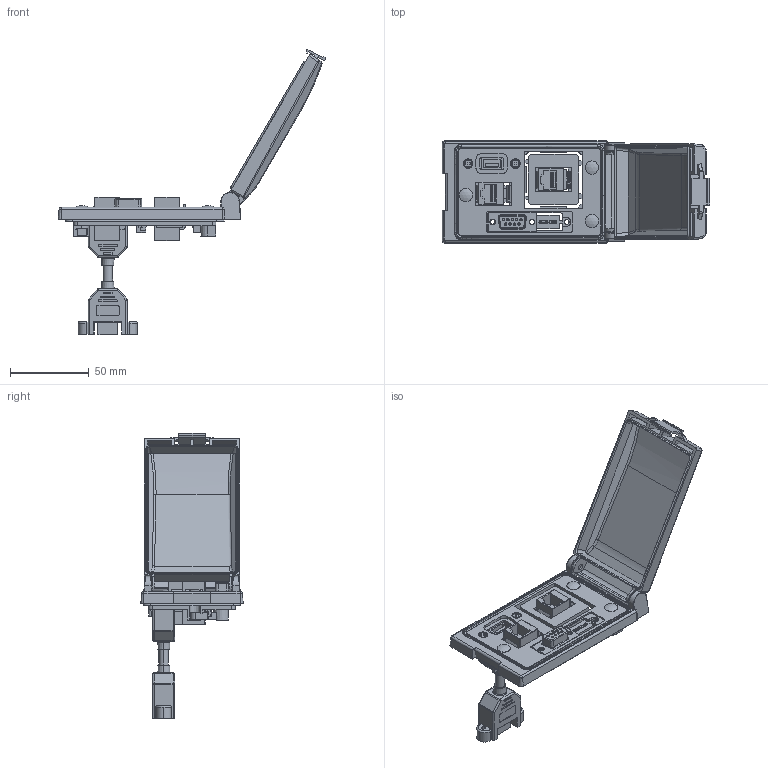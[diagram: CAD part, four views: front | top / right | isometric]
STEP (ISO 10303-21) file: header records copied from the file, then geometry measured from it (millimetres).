
FILE_DESCRIPTION (( 'STEP AP203' ), '1' );
FILE_NAME ('9045209.STEP', '2020-11-24T08:49:11', ( '' ), ( '' ), 'SwSTEP 2.0', 'SolidWorks 2016', '' );
FILE_SCHEMA (( 'CONFIG_CONTROL_DESIGN' ));
Products named in the file (1): 9045209
Bounding box: 169.88 x 65 x 181.03 mm (x, y, z)
Volume: 80088.3 mm3; surface area: 69046.4 mm2
Topology: 7 solids, 10 shells, 2540 faces, 6767 edges, 4253 vertices
Faces by surface type: plane 1254, cylinder 728, bspline 273, cone 155, torus 78, sphere 52
Entity records: 94818 total; most frequent: CARTESIAN_POINT 35531, ORIENTED_EDGE 13354, DIRECTION 10751, EDGE_CURVE 6677, VERTEX_POINT 4247, VECTOR 3597, LINE 3597, AXIS2_PLACEMENT_3D 3577
